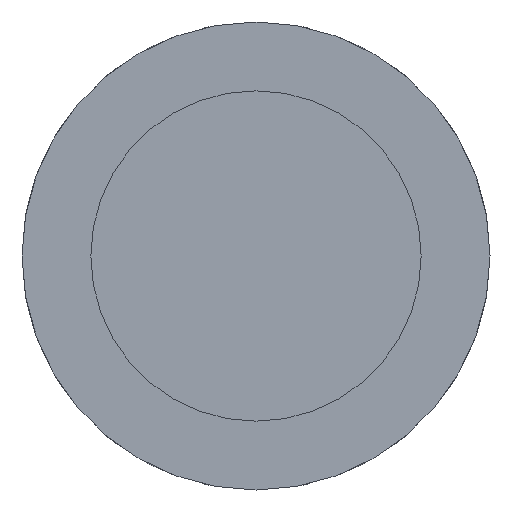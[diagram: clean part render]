
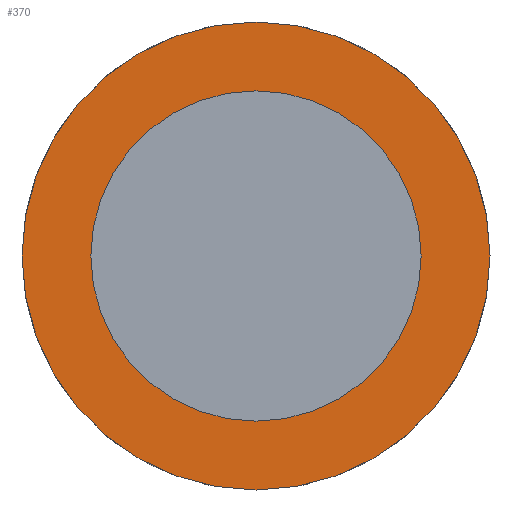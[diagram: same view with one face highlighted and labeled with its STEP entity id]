
A CAD part, front view. The second image highlights one B-rep face of the part: STEP entity #370.
In plain terms, the highlighted planar face has unit normal (0, -1, 0).
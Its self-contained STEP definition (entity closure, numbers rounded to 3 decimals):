
#26 = AXIS2_PLACEMENT_3D ( 'NONE', #857, #55, #1024 ) ;
#53 = DIRECTION ( 'NONE',  ( -1., 0., 0. ) ) ;
#55 = DIRECTION ( 'NONE',  ( 0., -1., 0. ) ) ;
#71 = VERTEX_POINT ( 'NONE', #161 ) ;
#79 = CARTESIAN_POINT ( 'NONE',  ( -4.2, 0., 0. ) ) ;
#106 = ORIENTED_EDGE ( 'NONE', *, *, #670, .F. ) ;
#145 = PLANE ( 'NONE',  #319 ) ;
#147 = FACE_BOUND ( 'NONE', #363, .T. ) ;
#158 = EDGE_LOOP ( 'NONE', ( #106, #218 ) ) ;
#160 = DIRECTION ( 'NONE',  ( 0., 0., 1. ) ) ;
#161 = CARTESIAN_POINT ( 'NONE',  ( 0., 0., 3. ) ) ;
#218 = ORIENTED_EDGE ( 'NONE', *, *, #728, .F. ) ;
#227 = DIRECTION ( 'NONE',  ( 0., 1., 0. ) ) ;
#231 = DIRECTION ( 'NONE',  ( 0., 1., 0. ) ) ;
#294 = DIRECTION ( 'NONE',  ( 0., 0., -1. ) ) ;
#296 = EDGE_CURVE ( 'NONE', #555, #71, #544, .T. ) ;
#303 = CARTESIAN_POINT ( 'NONE',  ( 0., 0., 0. ) ) ;
#319 = AXIS2_PLACEMENT_3D ( 'NONE', #79, #231, #160 ) ;
#363 = EDGE_LOOP ( 'NONE', ( #684, #638 ) ) ;
#370 = ADVANCED_FACE ( 'NONE', ( #147, #662 ), #145, .F. ) ;
#371 = CARTESIAN_POINT ( 'NONE',  ( 0., 0., 0. ) ) ;
#385 = DIRECTION ( 'NONE',  ( -1., 0., 0. ) ) ;
#440 = CARTESIAN_POINT ( 'NONE',  ( 0., 0., 0. ) ) ;
#459 = CIRCLE ( 'NONE', #605, 4.25 ) ;
#465 = AXIS2_PLACEMENT_3D ( 'NONE', #440, #691, #294 ) ;
#520 = CIRCLE ( 'NONE', #933, 4.25 ) ;
#544 = CIRCLE ( 'NONE', #465, 3. ) ;
#555 = VERTEX_POINT ( 'NONE', #829 ) ;
#582 = VERTEX_POINT ( 'NONE', #600 ) ;
#600 = CARTESIAN_POINT ( 'NONE',  ( -4.25, 0., 0. ) ) ;
#605 = AXIS2_PLACEMENT_3D ( 'NONE', #303, #227, #385 ) ;
#638 = ORIENTED_EDGE ( 'NONE', *, *, #1033, .F. ) ;
#662 = FACE_OUTER_BOUND ( 'NONE', #158, .T. ) ;
#670 = EDGE_CURVE ( 'NONE', #582, #983, #520, .T. ) ;
#684 = ORIENTED_EDGE ( 'NONE', *, *, #296, .F. ) ;
#691 = DIRECTION ( 'NONE',  ( 0., -1., 0. ) ) ;
#728 = EDGE_CURVE ( 'NONE', #983, #582, #459, .T. ) ;
#777 = DIRECTION ( 'NONE',  ( 0., 1., 0. ) ) ;
#829 = CARTESIAN_POINT ( 'NONE',  ( 0., 0., -3. ) ) ;
#857 = CARTESIAN_POINT ( 'NONE',  ( 0., 0., 0. ) ) ;
#933 = AXIS2_PLACEMENT_3D ( 'NONE', #371, #777, #53 ) ;
#983 = VERTEX_POINT ( 'NONE', #988 ) ;
#988 = CARTESIAN_POINT ( 'NONE',  ( 4.25, 0., 0. ) ) ;
#1024 = DIRECTION ( 'NONE',  ( 0., 0., -1. ) ) ;
#1033 = EDGE_CURVE ( 'NONE', #71, #555, #1037, .T. ) ;
#1037 = CIRCLE ( 'NONE', #26, 3. ) ;
